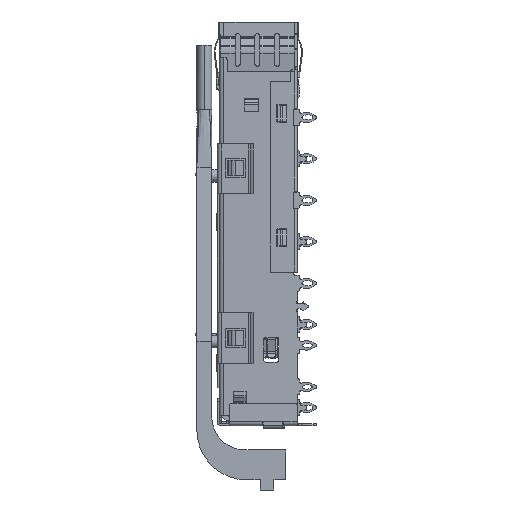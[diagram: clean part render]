
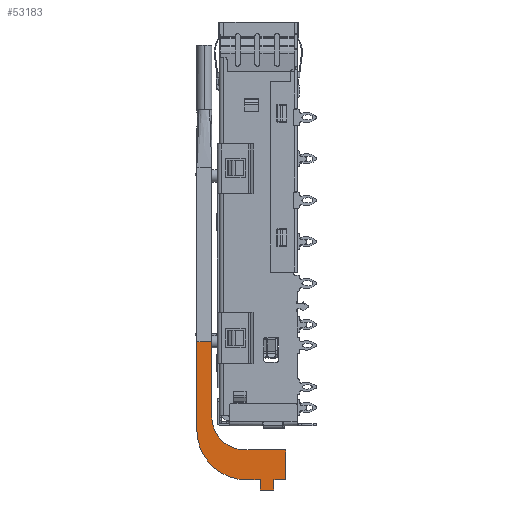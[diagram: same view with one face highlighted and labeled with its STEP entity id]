
A CAD part, left-side view. The second image highlights one B-rep face of the part: STEP entity #53183.
In plain terms, the highlighted planar face has unit normal (-1, 0, 0).
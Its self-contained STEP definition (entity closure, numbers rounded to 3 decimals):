
#286 = DIRECTION ( 'NONE',  ( 1., 0., 0. ) ) ;
#381 = EDGE_CURVE ( 'NONE', #53121, #75948, #30465, .T. ) ;
#1170 = ORIENTED_EDGE ( 'NONE', *, *, #381, .F. ) ;
#3283 = VECTOR ( 'NONE', #64153, 1000. ) ;
#5418 = CARTESIAN_POINT ( 'NONE',  ( 1.2, 4.235, -55.2 ) ) ;
#5810 = CARTESIAN_POINT ( 'NONE',  ( 1.2, 1.15, -51.6 ) ) ;
#7826 = VECTOR ( 'NONE', #15334, 1000. ) ;
#8380 = ORIENTED_EDGE ( 'NONE', *, *, #40038, .T. ) ;
#8600 = AXIS2_PLACEMENT_3D ( 'NONE', #20089, #44679, #38639 ) ;
#8625 = VECTOR ( 'NONE', #33611, 1000. ) ;
#8814 = DIRECTION ( 'NONE',  ( 0., 0., -1. ) ) ;
#9872 = CIRCLE ( 'NONE', #8600, 4. ) ;
#10876 = ORIENTED_EDGE ( 'NONE', *, *, #67225, .F. ) ;
#11542 = CARTESIAN_POINT ( 'NONE',  ( 1.2, 5.883, -55.2 ) ) ;
#14550 = LINE ( 'NONE', #49746, #7826 ) ;
#15334 = DIRECTION ( 'NONE',  ( 0., 1., 0. ) ) ;
#16829 = EDGE_LOOP ( 'NONE', ( #32853, #10876, #19591, #64760, #63446, #56494, #1170, #74947, #8380, #78449, #54577, #18157 ) ) ;
#17664 = VERTEX_POINT ( 'NONE', #41486 ) ;
#17939 = CARTESIAN_POINT ( 'NONE',  ( 1.2, 6.083, -51.6 ) ) ;
#18157 = ORIENTED_EDGE ( 'NONE', *, *, #37563, .T. ) ;
#18956 = VERTEX_POINT ( 'NONE', #17939 ) ;
#19162 = VECTOR ( 'NONE', #23595, 1000. ) ;
#19591 = ORIENTED_EDGE ( 'NONE', *, *, #77494, .T. ) ;
#19639 = LINE ( 'NONE', #77214, #77305 ) ;
#20089 = CARTESIAN_POINT ( 'NONE',  ( 1.2, 6.083, -47.6 ) ) ;
#20402 = EDGE_CURVE ( 'NONE', #75948, #34118, #19639, .T. ) ;
#20947 = VERTEX_POINT ( 'NONE', #54090 ) ;
#21922 = LINE ( 'NONE', #65101, #8625 ) ;
#23595 = DIRECTION ( 'NONE',  ( 0., 0., 1. ) ) ;
#24434 = CARTESIAN_POINT ( 'NONE',  ( 1.2, 4.235, -56.43 ) ) ;
#28083 = CARTESIAN_POINT ( 'NONE',  ( 1.2, 2.585, -56.43 ) ) ;
#30465 = LINE ( 'NONE', #24434, #65406 ) ;
#30467 = EDGE_CURVE ( 'NONE', #20947, #70721, #69833, .T. ) ;
#30488 = VERTEX_POINT ( 'NONE', #39918 ) ;
#32309 = CARTESIAN_POINT ( 'NONE',  ( 1.2, 10.083, -38.55 ) ) ;
#32672 = CARTESIAN_POINT ( 'NONE',  ( 1.2, 2.585, -55.2 ) ) ;
#32853 = ORIENTED_EDGE ( 'NONE', *, *, #48155, .F. ) ;
#33611 = DIRECTION ( 'NONE',  ( 0., 0., 1. ) ) ;
#34118 = VERTEX_POINT ( 'NONE', #11542 ) ;
#34256 = CARTESIAN_POINT ( 'NONE',  ( 1.2, 1.15, -55.2 ) ) ;
#35426 = AXIS2_PLACEMENT_3D ( 'NONE', #40591, #65259, #58405 ) ;
#37563 = EDGE_CURVE ( 'NONE', #63539, #18956, #47774, .T. ) ;
#37895 = CARTESIAN_POINT ( 'NONE',  ( 1.2, 1.15, -55.2 ) ) ;
#38639 = DIRECTION ( 'NONE',  ( 0., 1., 0. ) ) ;
#39482 = LINE ( 'NONE', #37895, #3283 ) ;
#39918 = CARTESIAN_POINT ( 'NONE',  ( 1.2, 10.083, -47.6 ) ) ;
#40038 = EDGE_CURVE ( 'NONE', #57069, #20947, #78502, .T. ) ;
#40049 = CARTESIAN_POINT ( 'NONE',  ( 1.2, 4.235, -56.43 ) ) ;
#40591 = CARTESIAN_POINT ( 'NONE',  ( 1.2, 5.883, -49.2 ) ) ;
#40841 = LINE ( 'NONE', #40049, #65292 ) ;
#41244 = VERTEX_POINT ( 'NONE', #53907 ) ;
#41486 = CARTESIAN_POINT ( 'NONE',  ( 1.2, 11.883, -49.2 ) ) ;
#42449 = AXIS2_PLACEMENT_3D ( 'NONE', #49487, #286, #63218 ) ;
#44679 = DIRECTION ( 'NONE',  ( -1., 0., 0. ) ) ;
#47076 = EDGE_CURVE ( 'NONE', #34118, #17664, #70266, .T. ) ;
#47101 = CARTESIAN_POINT ( 'NONE',  ( 1.2, 4.235, -56.43 ) ) ;
#47774 = LINE ( 'NONE', #5810, #61353 ) ;
#48155 = EDGE_CURVE ( 'NONE', #30488, #18956, #9872, .T. ) ;
#48892 = EDGE_CURVE ( 'NONE', #70721, #63539, #39482, .T. ) ;
#49487 = CARTESIAN_POINT ( 'NONE',  ( 1.2, 6.516, -47.49 ) ) ;
#49746 = CARTESIAN_POINT ( 'NONE',  ( 1.2, 10.083, -38.55 ) ) ;
#50671 = FACE_OUTER_BOUND ( 'NONE', #16829, .T. ) ;
#51166 = VECTOR ( 'NONE', #76670, 1000. ) ;
#53121 = VERTEX_POINT ( 'NONE', #47101 ) ;
#53183 = ADVANCED_FACE ( 'NONE', ( #50671 ), #74122, .F. ) ;
#53907 = CARTESIAN_POINT ( 'NONE',  ( 1.2, 11.883, -38.55 ) ) ;
#54090 = CARTESIAN_POINT ( 'NONE',  ( 1.2, 2.585, -55.2 ) ) ;
#54577 = ORIENTED_EDGE ( 'NONE', *, *, #48892, .T. ) ;
#55101 = DIRECTION ( 'NONE',  ( 0., 0., 1. ) ) ;
#56494 = ORIENTED_EDGE ( 'NONE', *, *, #20402, .F. ) ;
#57069 = VERTEX_POINT ( 'NONE', #64355 ) ;
#58405 = DIRECTION ( 'NONE',  ( 0., 0., -1. ) ) ;
#58655 = DIRECTION ( 'NONE',  ( 0., 1., 0. ) ) ;
#61353 = VECTOR ( 'NONE', #72421, 1000. ) ;
#63218 = DIRECTION ( 'NONE',  ( 0., 1., 0. ) ) ;
#63301 = CARTESIAN_POINT ( 'NONE',  ( 1.2, 10.083, -38.55 ) ) ;
#63446 = ORIENTED_EDGE ( 'NONE', *, *, #47076, .F. ) ;
#63539 = VERTEX_POINT ( 'NONE', #68282 ) ;
#64081 = LINE ( 'NONE', #63301, #79156 ) ;
#64153 = DIRECTION ( 'NONE',  ( 0., 0., 1. ) ) ;
#64355 = CARTESIAN_POINT ( 'NONE',  ( 1.2, 2.585, -56.43 ) ) ;
#64760 = ORIENTED_EDGE ( 'NONE', *, *, #73858, .F. ) ;
#65101 = CARTESIAN_POINT ( 'NONE',  ( 1.2, 11.883, -49.2 ) ) ;
#65259 = DIRECTION ( 'NONE',  ( 1., 0., 0. ) ) ;
#65292 = VECTOR ( 'NONE', #71553, 1000. ) ;
#65406 = VECTOR ( 'NONE', #55101, 1000. ) ;
#67225 = EDGE_CURVE ( 'NONE', #73034, #30488, #64081, .T. ) ;
#68282 = CARTESIAN_POINT ( 'NONE',  ( 1.2, 1.15, -51.6 ) ) ;
#69833 = LINE ( 'NONE', #32672, #51166 ) ;
#70266 = CIRCLE ( 'NONE', #35426, 6. ) ;
#70721 = VERTEX_POINT ( 'NONE', #34256 ) ;
#71553 = DIRECTION ( 'NONE',  ( 0., -1., 0. ) ) ;
#72421 = DIRECTION ( 'NONE',  ( 0., 1., 0. ) ) ;
#73034 = VERTEX_POINT ( 'NONE', #32309 ) ;
#73854 = EDGE_CURVE ( 'NONE', #53121, #57069, #40841, .T. ) ;
#73858 = EDGE_CURVE ( 'NONE', #17664, #41244, #21922, .T. ) ;
#74122 = PLANE ( 'NONE',  #42449 ) ;
#74947 = ORIENTED_EDGE ( 'NONE', *, *, #73854, .T. ) ;
#75948 = VERTEX_POINT ( 'NONE', #5418 ) ;
#76670 = DIRECTION ( 'NONE',  ( 0., -1., 0. ) ) ;
#77214 = CARTESIAN_POINT ( 'NONE',  ( 1.2, 4.235, -55.2 ) ) ;
#77305 = VECTOR ( 'NONE', #58655, 1000. ) ;
#77494 = EDGE_CURVE ( 'NONE', #73034, #41244, #14550, .T. ) ;
#78449 = ORIENTED_EDGE ( 'NONE', *, *, #30467, .T. ) ;
#78502 = LINE ( 'NONE', #28083, #19162 ) ;
#79156 = VECTOR ( 'NONE', #8814, 1000. ) ;
